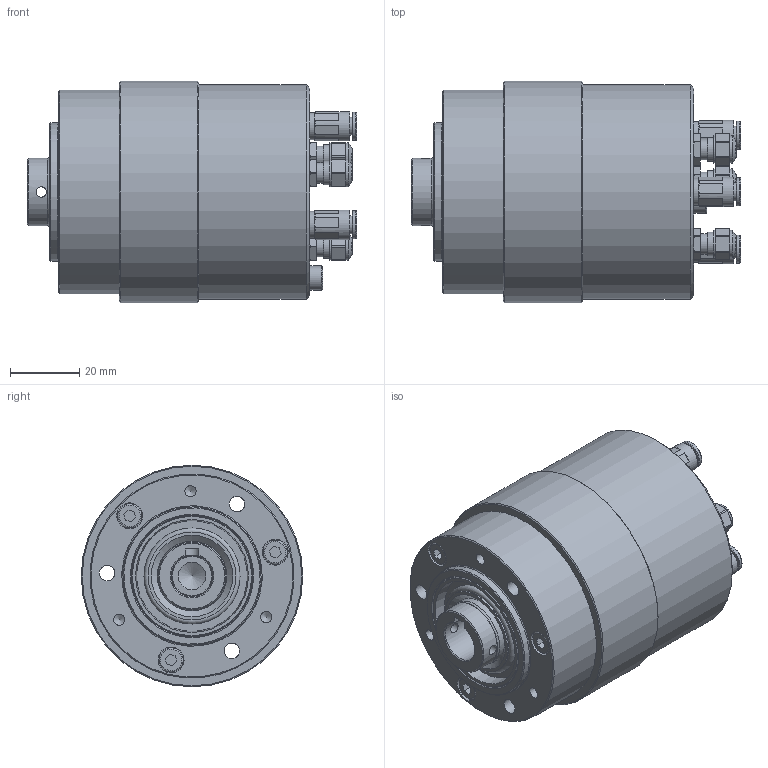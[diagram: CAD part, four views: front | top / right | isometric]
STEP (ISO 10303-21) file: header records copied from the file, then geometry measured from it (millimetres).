
FILE_DESCRIPTION(/* description */ (''),/* implementation_level */ '2;1');
FILE_NAME(/* name */ 'G:\02 CAD Dateien\02 - CAD Schrittmotoren BPS\01 - Standart Produkte\BPS 1620-23\Verkaufsunterlagen\STEP ab JULI 2017\500-16-362 Schrittmotor BPS-1620IP-SA-0027.stp',/* time_stamp */ '2017-07-26T10:07:41+02:00',/* author */ ('psc'),/* organization */ (''),/* preprocessor_version */ 'ST-DEVELOPER v16.1',/* originating_system */ 'Autodesk Inventor 2016',/* authorisation */ '');
FILE_SCHEMA (('AUTOMOTIVE_DESIGN { 1 0 10303 214 3 1 1 }'));
Length unit declared in the file: millimetre
Products named in the file (1): 500-16-362 Schrittmotor BPS-1620IP-SA-0027
Bounding box: 95.1 x 64 x 64 mm (x, y, z)
Volume: 212366 mm3; surface area: 41820.4 mm2
Topology: 13 solids, 30 shells, 659 faces, 1567 edges, 1004 vertices
Faces by surface type: plane 290, cylinder 148, torus 86, cone 82, bspline 31, sphere 22
Full cylindrical faces by diameter (mm): 2 x5, 2.7 x3, 3 x3, 3.242 x3, 3.6 x3, 4 x6, 4.5 x7, 4.7 x3, 4.773 x3, 4.8 x6, 4.917 x3, 5.2 x3, 5.93 x3, 6.2 x3, 6.38 x3, 6.84 x3, 7 x4, 7.5 x3, 7.8 x3, 7.9 x6, 8 x1, 8.1 x3, 8.5 x3, 9 x1, 19 x1, 19.5 x1, 20 x3, 25.325 x1, 25.4 x1, 26.657 x1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
Entity records: 18605 total; most frequent: CARTESIAN_POINT 3983, DIRECTION 2950, ORIENTED_EDGE 2580, EDGE_CURVE 1245, AXIS2_PLACEMENT_3D 1232, EDGE_LOOP 975, VERTEX_POINT 892, ADVANCED_FACE 659
